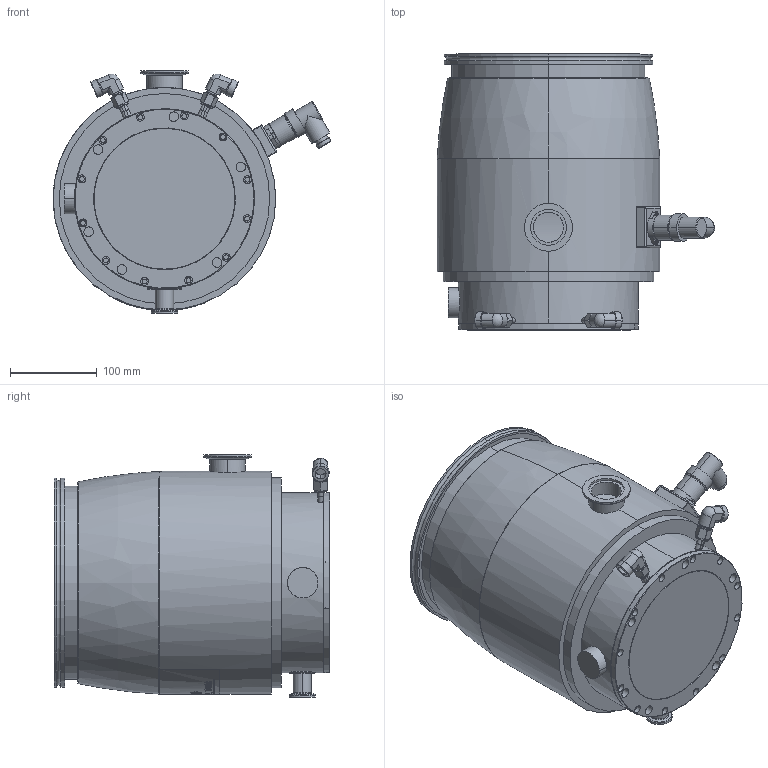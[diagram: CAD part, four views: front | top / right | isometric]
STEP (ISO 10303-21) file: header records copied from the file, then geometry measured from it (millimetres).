
FILE_DESCRIPTION((''),'2;1');
FILE_NAME('ENV-ATH1600MT-P6512100','2009-05-26T',('NVARENNES'),(''),'PRO/ENGINEER BY PARAMETRIC TECHNOLOGY CORPORATION, 2008010','PRO/ENGINEER BY PARAMETRIC TECHNOLOGY CORPORATION, 2008010','');
FILE_SCHEMA(('CONFIG_CONTROL_DESIGN'));
Length unit declared in the file: millimetre
Products named in the file (1): ENV-ATH1600MT-P6512100
Bounding box: 319.32 x 317.22 x 278.5 mm (x, y, z)
Volume: 14567901.2 mm3; surface area: 408270.3 mm2
Topology: 1 solids, 4 shells, 748 faces, 1842 edges, 1180 vertices
Faces by surface type: cylinder 271, plane 230, bspline 164, cone 44, torus 23, sphere 16
Entity records: 29889 total; most frequent: CARTESIAN_POINT 12162, ORIENTED_EDGE 3680, DIRECTION 3261, EDGE_CURVE 1840, AXIS2_PLACEMENT_3D 1262, VERTEX_POINT 1180, EDGE_LOOP 866, FACE_OUTER_BOUND 748
